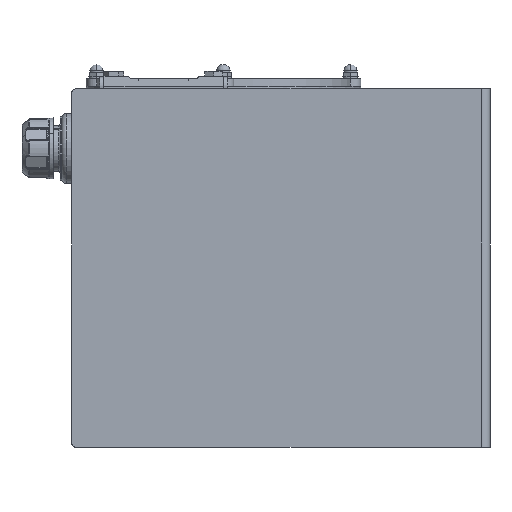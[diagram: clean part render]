
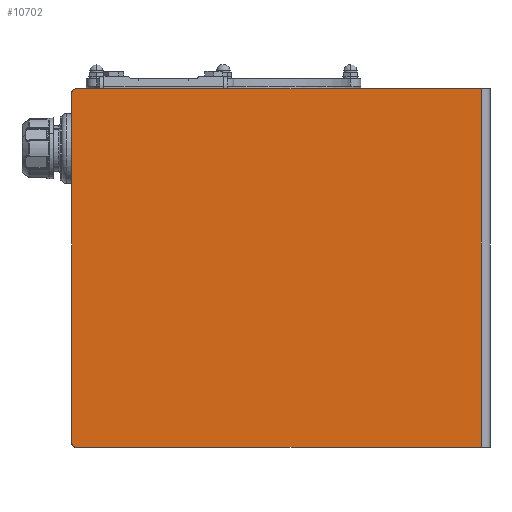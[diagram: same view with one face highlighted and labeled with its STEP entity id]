
A CAD part, left-side view. The second image highlights one B-rep face of the part: STEP entity #10702.
In plain terms, the highlighted planar face has unit normal (-1, 0, 0) as drawn and (0, 0, 1) by its records, which use the part's own axes.
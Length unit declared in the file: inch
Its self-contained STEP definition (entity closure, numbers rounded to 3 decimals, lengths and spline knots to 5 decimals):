
#825 = CARTESIAN_POINT ( 'NONE',  ( -9., -10.0707, 0. ) ) ;
#1126 = EDGE_CURVE ( 'NONE', #13293, #12972, #20729, .T. ) ;
#2290 = CARTESIAN_POINT ( 'NONE',  ( -9., -10.0707, 0. ) ) ;
#2331 = ORIENTED_EDGE ( 'NONE', *, *, #6147, .T. ) ;
#2671 = VERTEX_POINT ( 'NONE', #19900 ) ;
#3877 = ORIENTED_EDGE ( 'NONE', *, *, #14390, .T. ) ;
#4061 = ORIENTED_EDGE ( 'NONE', *, *, #14935, .T. ) ;
#4391 = AXIS2_PLACEMENT_3D ( 'NONE', #17733, #23591, #22926 ) ;
#4779 = EDGE_CURVE ( 'NONE', #2671, #13293, #7761, .T. ) ;
#6147 = EDGE_CURVE ( 'NONE', #15955, #9576, #18591, .T. ) ;
#7719 = DIRECTION ( 'NONE',  ( 0., 0., 1. ) ) ;
#7761 = LINE ( 'NONE', #21015, #13464 ) ;
#7885 = CARTESIAN_POINT ( 'NONE',  ( -8.75, 10.25, 0. ) ) ;
#7919 = FACE_OUTER_BOUND ( 'NONE', #14792, .T. ) ;
#8149 = ORIENTED_EDGE ( 'NONE', *, *, #1126, .T. ) ;
#9470 = EDGE_CURVE ( 'NONE', #12972, #25937, #33758, .T. ) ;
#9576 = VERTEX_POINT ( 'NONE', #13791 ) ;
#10460 = DIRECTION ( 'NONE',  ( -1., 0., 0. ) ) ;
#10702 = ADVANCED_FACE ( 'NONE', ( #7919 ), #18403, .F. ) ;
#12013 = DIRECTION ( 'NONE',  ( 0., 0., 1. ) ) ;
#12028 = CIRCLE ( 'NONE', #21362, 0.25 ) ;
#12972 = VERTEX_POINT ( 'NONE', #32532 ) ;
#13293 = VERTEX_POINT ( 'NONE', #26183 ) ;
#13464 = VECTOR ( 'NONE', #31311, 39.37008 ) ;
#13791 = CARTESIAN_POINT ( 'NONE',  ( 9., 10.25, 0. ) ) ;
#14390 = EDGE_CURVE ( 'NONE', #25937, #15955, #30988, .T. ) ;
#14792 = EDGE_LOOP ( 'NONE', ( #2331, #4061, #21786, #8149, #26576, #3877 ) ) ;
#14824 = DIRECTION ( 'NONE',  ( 1., 0., 0. ) ) ;
#14935 = EDGE_CURVE ( 'NONE', #9576, #2671, #12028, .T. ) ;
#15955 = VERTEX_POINT ( 'NONE', #27036 ) ;
#16006 = DIRECTION ( 'NONE',  ( 0., 1., 0. ) ) ;
#16512 = CARTESIAN_POINT ( 'NONE',  ( 9., -10.5, 0. ) ) ;
#17501 = VECTOR ( 'NONE', #26361, 39.37008 ) ;
#17733 = CARTESIAN_POINT ( 'NONE',  ( 0., 0., 0. ) ) ;
#18403 = PLANE ( 'NONE',  #4391 ) ;
#18591 = LINE ( 'NONE', #16512, #20703 ) ;
#19900 = CARTESIAN_POINT ( 'NONE',  ( 8.75, 10.5, 0. ) ) ;
#20703 = VECTOR ( 'NONE', #16006, 39.37008 ) ;
#20729 = CIRCLE ( 'NONE', #29511, 0.25 ) ;
#21015 = CARTESIAN_POINT ( 'NONE',  ( -9., 10.5, 0. ) ) ;
#21362 = AXIS2_PLACEMENT_3D ( 'NONE', #28168, #12013, #22515 ) ;
#21786 = ORIENTED_EDGE ( 'NONE', *, *, #4779, .T. ) ;
#22515 = DIRECTION ( 'NONE',  ( -1., 0., 0. ) ) ;
#22926 = DIRECTION ( 'NONE',  ( -1., 0., 0. ) ) ;
#23591 = DIRECTION ( 'NONE',  ( 0., 0., -1. ) ) ;
#25937 = VERTEX_POINT ( 'NONE', #825 ) ;
#26183 = CARTESIAN_POINT ( 'NONE',  ( -8.75, 10.5, 0. ) ) ;
#26361 = DIRECTION ( 'NONE',  ( 0., -1., 0. ) ) ;
#26576 = ORIENTED_EDGE ( 'NONE', *, *, #9470, .T. ) ;
#27036 = CARTESIAN_POINT ( 'NONE',  ( 9., -10.0707, 0. ) ) ;
#28168 = CARTESIAN_POINT ( 'NONE',  ( 8.75, 10.25, 0. ) ) ;
#29511 = AXIS2_PLACEMENT_3D ( 'NONE', #7885, #7719, #10460 ) ;
#29598 = CARTESIAN_POINT ( 'NONE',  ( -9., -10.5, 0. ) ) ;
#30988 = LINE ( 'NONE', #2290, #31424 ) ;
#31311 = DIRECTION ( 'NONE',  ( -1., 0., 0. ) ) ;
#31424 = VECTOR ( 'NONE', #14824, 39.37008 ) ;
#32532 = CARTESIAN_POINT ( 'NONE',  ( -9., 10.25, 0. ) ) ;
#33758 = LINE ( 'NONE', #29598, #17501 ) ;
